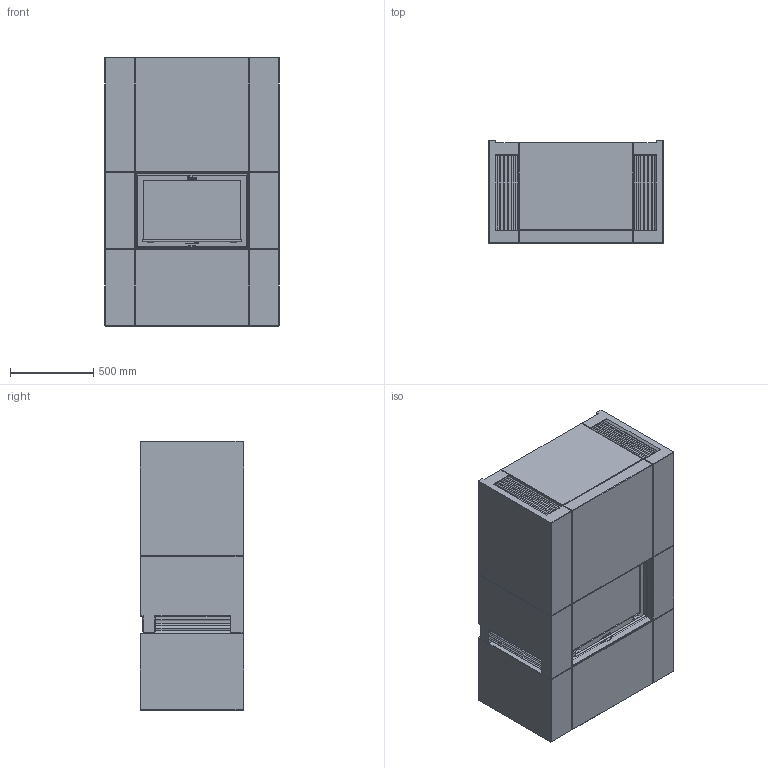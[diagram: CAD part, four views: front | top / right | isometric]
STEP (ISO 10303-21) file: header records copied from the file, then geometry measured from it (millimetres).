
FILE_DESCRIPTION( ( 'Unknown' ), '1' );
FILE_NAME( 'C:/Documents and Settings/hapierrea/Application Data/Unigraphics Solutions/Solid Edge/Insight/insight/Insight/interior models/C11C Assembly.stp', '2010', ( 'Unknown' ), ( 'NIBE AB' ), 'PSStep 11.0', 'Solid Edge', ' ' );
FILE_SCHEMA( ( 'AUTOMOTIVE_DESIGN { 1 0 10303 214 1 1 1 1 }' ) );
Length unit declared in the file: millimetre
Products named in the file (27): Assem1; Fire i10; Grate i10 i20; Grills C11; Front set C11C; Insert i10; Firebox insulation i10; Door i10; Door frame i10; Concrete set C11-oa0; Glass i10
Bounding box: 1050 x 620 x 1618 mm (x, y, z)
Surface area: 47601217.5 mm2
Topology: 52 solids, 52 shells, 3160 faces, 8212 edges, 5410 vertices
Faces by surface type: plane 2286, extrusion 570, cylinder 280, cone 20, sphere 4
Full cylindrical faces by diameter (mm): 10 x32, 12 x2, 100 x6, 200 x6
Entity records: 67889 total; most frequent: CARTESIAN_POINT 17923, ORIENTED_EDGE 8160, DIRECTION 6356, EDGE_CURVE 4080, VERTEX_POINT 2704, VECTOR 2654, LINE 2369, AXIS2_PLACEMENT_3D 1851
